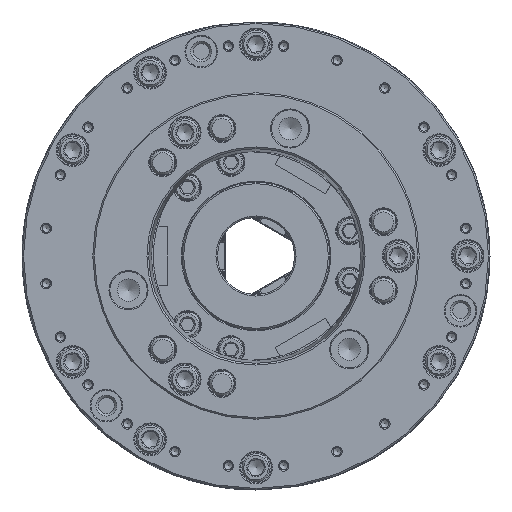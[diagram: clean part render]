
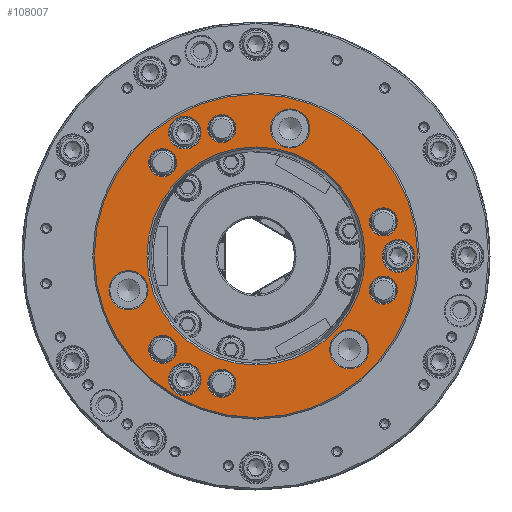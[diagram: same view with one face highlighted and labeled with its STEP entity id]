
A CAD part, left-side view. The second image highlights one B-rep face of the part: STEP entity #108007.
In plain terms, the highlighted planar face has unit normal (-1, 0, 0).
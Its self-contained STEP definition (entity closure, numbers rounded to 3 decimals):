
#216 = CIRCLE ( 'NONE', #14420, 105. ) ;
#1186 = CARTESIAN_POINT ( 'NONE',  ( -125., 22.187, 82.804 ) ) ;
#1993 = CIRCLE ( 'NONE', #129498, 12.705 ) ;
#3551 = EDGE_LOOP ( 'NONE', ( #88476 ) ) ;
#3667 = ORIENTED_EDGE ( 'NONE', *, *, #6503, .T. ) ;
#4482 = DIRECTION ( 'NONE',  ( 0., 0., 1. ) ) ;
#5330 = FACE_BOUND ( 'NONE', #117686, .T. ) ;
#6040 = PLANE ( 'NONE',  #28202 ) ;
#6503 = EDGE_CURVE ( 'NONE', #112399, #112399, #96721, .T. ) ;
#10970 = CARTESIAN_POINT ( 'NONE',  ( -125., -22.187, 82.804 ) ) ;
#12002 = ORIENTED_EDGE ( 'NONE', *, *, #133559, .F. ) ;
#13371 = EDGE_CURVE ( 'NONE', #24329, #24329, #25396, .T. ) ;
#13550 = AXIS2_PLACEMENT_3D ( 'NONE', #14421, #50589, #48412 ) ;
#14420 = AXIS2_PLACEMENT_3D ( 'NONE', #66841, #91999, #90547 ) ;
#14421 = CARTESIAN_POINT ( 'NONE',  ( -125., 60.617, 60.617 ) ) ;
#17855 = FACE_OUTER_BOUND ( 'NONE', #114086, .T. ) ;
#19763 = CARTESIAN_POINT ( 'NONE',  ( -125., 0., 105. ) ) ;
#21074 = AXIS2_PLACEMENT_3D ( 'NONE', #36847, #81971, #81256 ) ;
#21911 = DIRECTION ( 'NONE',  ( -1., 0., 0. ) ) ;
#22386 = CIRCLE ( 'NONE', #95689, 9.1 ) ;
#23261 = CIRCLE ( 'NONE', #75202, 70.861 ) ;
#24329 = VERTEX_POINT ( 'NONE', #103490 ) ;
#25396 = CIRCLE ( 'NONE', #46600, 10.6 ) ;
#25804 = CARTESIAN_POINT ( 'NONE',  ( -125., 60.617, 69.717 ) ) ;
#26540 = CARTESIAN_POINT ( 'NONE',  ( -125., 46.25, 90.707 ) ) ;
#26708 = DIRECTION ( 'NONE',  ( -1., 0., 0. ) ) ;
#27078 = EDGE_LOOP ( 'NONE', ( #71768 ) ) ;
#27663 = EDGE_CURVE ( 'NONE', #142599, #142599, #126010, .T. ) ;
#28202 = AXIS2_PLACEMENT_3D ( 'NONE', #37923, #51132, #141435 ) ;
#28239 = FACE_BOUND ( 'NONE', #115439, .T. ) ;
#28274 = ORIENTED_EDGE ( 'NONE', *, *, #130946, .F. ) ;
#28312 = AXIS2_PLACEMENT_3D ( 'NONE', #134412, #53759, #144076 ) ;
#29167 = EDGE_CURVE ( 'NONE', #110736, #110736, #50574, .T. ) ;
#29866 = CARTESIAN_POINT ( 'NONE',  ( -125., 82.804, -22.187 ) ) ;
#30103 = CARTESIAN_POINT ( 'NONE',  ( -125., -60.617, -73.322 ) ) ;
#31428 = CARTESIAN_POINT ( 'NONE',  ( -125., 0., 70.861 ) ) ;
#32521 = EDGE_LOOP ( 'NONE', ( #3667 ) ) ;
#32638 = CIRCLE ( 'NONE', #96463, 10.6 ) ;
#33471 = EDGE_CURVE ( 'NONE', #132940, #132940, #216, .T. ) ;
#36361 = DIRECTION ( 'NONE',  ( 0., 0., 1. ) ) ;
#36847 = CARTESIAN_POINT ( 'NONE',  ( -125., 46.25, -80.107 ) ) ;
#37923 = CARTESIAN_POINT ( 'NONE',  ( -125., 105., 0. ) ) ;
#39247 = CARTESIAN_POINT ( 'NONE',  ( -125., 22.187, -82.804 ) ) ;
#39323 = FACE_BOUND ( 'NONE', #72846, .T. ) ;
#44255 = DIRECTION ( 'NONE',  ( 0., 0., -1. ) ) ;
#44913 = VERTEX_POINT ( 'NONE', #137404 ) ;
#45985 = ORIENTED_EDGE ( 'NONE', *, *, #141916, .F. ) ;
#46147 = CARTESIAN_POINT ( 'NONE',  ( -125., 46.25, -69.507 ) ) ;
#46600 = AXIS2_PLACEMENT_3D ( 'NONE', #82637, #61835, #50746 ) ;
#46830 = EDGE_LOOP ( 'NONE', ( #28274 ) ) ;
#46992 = DIRECTION ( 'NONE',  ( 0., 0., 1. ) ) ;
#48412 = DIRECTION ( 'NONE',  ( 0., 0., 1. ) ) ;
#48720 = EDGE_LOOP ( 'NONE', ( #115689 ) ) ;
#50574 = CIRCLE ( 'NONE', #74229, 9.1 ) ;
#50589 = DIRECTION ( 'NONE',  ( -1., 0., 0. ) ) ;
#50746 = DIRECTION ( 'NONE',  ( 0., 0., 1. ) ) ;
#51132 = DIRECTION ( 'NONE',  ( 1., 0., 0. ) ) ;
#51855 = FACE_BOUND ( 'NONE', #32521, .T. ) ;
#51930 = CIRCLE ( 'NONE', #28312, 9.1 ) ;
#52150 = VERTEX_POINT ( 'NONE', #31428 ) ;
#52592 = FACE_BOUND ( 'NONE', #116851, .T. ) ;
#52982 = EDGE_LOOP ( 'NONE', ( #74694 ) ) ;
#53759 = DIRECTION ( 'NONE',  ( -1., 0., 0. ) ) ;
#55783 = ORIENTED_EDGE ( 'NONE', *, *, #33471, .T. ) ;
#56530 = DIRECTION ( 'NONE',  ( 0., 0., 1. ) ) ;
#57604 = EDGE_CURVE ( 'NONE', #59623, #59623, #22386, .T. ) ;
#57689 = EDGE_LOOP ( 'NONE', ( #131290 ) ) ;
#59623 = VERTEX_POINT ( 'NONE', #105491 ) ;
#61835 = DIRECTION ( 'NONE',  ( -1., 0., 0. ) ) ;
#64890 = CARTESIAN_POINT ( 'NONE',  ( -125., 82.804, -34.892 ) ) ;
#64968 = DIRECTION ( 'NONE',  ( 1., 0., 0. ) ) ;
#65618 = VERTEX_POINT ( 'NONE', #64890 ) ;
#66841 = CARTESIAN_POINT ( 'NONE',  ( -125., 0., 0. ) ) ;
#70752 = VERTEX_POINT ( 'NONE', #114465 ) ;
#70913 = EDGE_CURVE ( 'NONE', #108369, #108369, #84867, .T. ) ;
#71768 = ORIENTED_EDGE ( 'NONE', *, *, #13371, .F. ) ;
#72846 = EDGE_LOOP ( 'NONE', ( #124396 ) ) ;
#73609 = DIRECTION ( 'NONE',  ( 1., 0., 0. ) ) ;
#74229 = AXIS2_PLACEMENT_3D ( 'NONE', #39247, #26708, #76027 ) ;
#74322 = CARTESIAN_POINT ( 'NONE',  ( -125., -60.617, -60.617 ) ) ;
#74512 = CARTESIAN_POINT ( 'NONE',  ( -125., 22.187, -73.704 ) ) ;
#74674 = AXIS2_PLACEMENT_3D ( 'NONE', #137937, #126781, #127524 ) ;
#74694 = ORIENTED_EDGE ( 'NONE', *, *, #106452, .F. ) ;
#75202 = AXIS2_PLACEMENT_3D ( 'NONE', #137731, #104420, #36361 ) ;
#75945 = AXIS2_PLACEMENT_3D ( 'NONE', #126779, #114974, #56530 ) ;
#76027 = DIRECTION ( 'NONE',  ( 0., 0., 1. ) ) ;
#76379 = ORIENTED_EDGE ( 'NONE', *, *, #123449, .T. ) ;
#81256 = DIRECTION ( 'NONE',  ( 0., 0., 1. ) ) ;
#81497 = DIRECTION ( 'NONE',  ( -1., 0., 0. ) ) ;
#81971 = DIRECTION ( 'NONE',  ( -1., 0., 0. ) ) ;
#82053 = ORIENTED_EDGE ( 'NONE', *, *, #70913, .F. ) ;
#82637 = CARTESIAN_POINT ( 'NONE',  ( -125., -92.5, 0. ) ) ;
#84478 = FACE_BOUND ( 'NONE', #46830, .T. ) ;
#84867 = CIRCLE ( 'NONE', #21074, 10.6 ) ;
#87304 = AXIS2_PLACEMENT_3D ( 'NONE', #10970, #64968, #44255 ) ;
#88476 = ORIENTED_EDGE ( 'NONE', *, *, #101593, .F. ) ;
#90547 = DIRECTION ( 'NONE',  ( 0., 0., 1. ) ) ;
#91999 = DIRECTION ( 'NONE',  ( -1., 0., 0. ) ) ;
#93154 = CARTESIAN_POINT ( 'NONE',  ( -125., -22.187, 70.099 ) ) ;
#94894 = CIRCLE ( 'NONE', #75945, 9.1 ) ;
#95604 = FACE_BOUND ( 'NONE', #48720, .T. ) ;
#95689 = AXIS2_PLACEMENT_3D ( 'NONE', #1186, #21911, #46992 ) ;
#96323 = FACE_BOUND ( 'NONE', #52982, .T. ) ;
#96463 = AXIS2_PLACEMENT_3D ( 'NONE', #103687, #81497, #4482 ) ;
#96721 = CIRCLE ( 'NONE', #87304, 12.705 ) ;
#97055 = FACE_BOUND ( 'NONE', #143796, .T. ) ;
#101002 = CIRCLE ( 'NONE', #13550, 9.1 ) ;
#101593 = EDGE_CURVE ( 'NONE', #127150, #127150, #101002, .T. ) ;
#103033 = CIRCLE ( 'NONE', #74674, 9.1 ) ;
#103490 = CARTESIAN_POINT ( 'NONE',  ( -125., -92.5, 10.6 ) ) ;
#103687 = CARTESIAN_POINT ( 'NONE',  ( -125., 46.25, 80.107 ) ) ;
#104420 = DIRECTION ( 'NONE',  ( -1., 0., 0. ) ) ;
#105491 = CARTESIAN_POINT ( 'NONE',  ( -125., 22.187, 91.904 ) ) ;
#106438 = VERTEX_POINT ( 'NONE', #140456 ) ;
#106452 = EDGE_CURVE ( 'NONE', #127894, #127894, #32638, .T. ) ;
#108007 = ADVANCED_FACE ( 'NONE', ( #51855, #97055, #5330, #95604, #39323, #108851, #52592, #96323, #84478, #28239, #139276, #119233, #17855, #118522 ), #6040, .F. ) ;
#108369 = VERTEX_POINT ( 'NONE', #46147 ) ;
#108851 = FACE_BOUND ( 'NONE', #57689, .T. ) ;
#109039 = DIRECTION ( 'NONE',  ( 1., 0., 0. ) ) ;
#110736 = VERTEX_POINT ( 'NONE', #74512 ) ;
#112399 = VERTEX_POINT ( 'NONE', #93154 ) ;
#113174 = EDGE_CURVE ( 'NONE', #106438, #106438, #103033, .T. ) ;
#114086 = EDGE_LOOP ( 'NONE', ( #55783 ) ) ;
#114465 = CARTESIAN_POINT ( 'NONE',  ( -125., -82.804, -13.087 ) ) ;
#114974 = DIRECTION ( 'NONE',  ( -1., 0., 0. ) ) ;
#115439 = EDGE_LOOP ( 'NONE', ( #12002 ) ) ;
#115689 = ORIENTED_EDGE ( 'NONE', *, *, #113174, .F. ) ;
#116851 = EDGE_LOOP ( 'NONE', ( #82053 ) ) ;
#117686 = EDGE_LOOP ( 'NONE', ( #76379 ) ) ;
#118522 = FACE_BOUND ( 'NONE', #3551, .T. ) ;
#119233 = FACE_BOUND ( 'NONE', #141187, .T. ) ;
#122327 = DIRECTION ( 'NONE',  ( 0., 0., -1. ) ) ;
#123449 = EDGE_CURVE ( 'NONE', #65618, #65618, #1993, .T. ) ;
#124396 = ORIENTED_EDGE ( 'NONE', *, *, #29167, .F. ) ;
#126010 = CIRCLE ( 'NONE', #144943, 12.705 ) ;
#126779 = CARTESIAN_POINT ( 'NONE',  ( -125., -82.804, -22.187 ) ) ;
#126781 = DIRECTION ( 'NONE',  ( -1., 0., 0. ) ) ;
#127150 = VERTEX_POINT ( 'NONE', #25804 ) ;
#127524 = DIRECTION ( 'NONE',  ( 0., 0., 1. ) ) ;
#127894 = VERTEX_POINT ( 'NONE', #26540 ) ;
#129498 = AXIS2_PLACEMENT_3D ( 'NONE', #29866, #109039, #122327 ) ;
#130946 = EDGE_CURVE ( 'NONE', #70752, #70752, #94894, .T. ) ;
#131290 = ORIENTED_EDGE ( 'NONE', *, *, #57604, .F. ) ;
#131995 = DIRECTION ( 'NONE',  ( 0., 0., -1. ) ) ;
#132940 = VERTEX_POINT ( 'NONE', #19763 ) ;
#133559 = EDGE_CURVE ( 'NONE', #44913, #44913, #51930, .T. ) ;
#134412 = CARTESIAN_POINT ( 'NONE',  ( -125., -82.804, 22.187 ) ) ;
#137404 = CARTESIAN_POINT ( 'NONE',  ( -125., -82.804, 31.287 ) ) ;
#137731 = CARTESIAN_POINT ( 'NONE',  ( -125., 0., 0. ) ) ;
#137937 = CARTESIAN_POINT ( 'NONE',  ( -125., 60.617, -60.617 ) ) ;
#139276 = FACE_BOUND ( 'NONE', #27078, .T. ) ;
#140456 = CARTESIAN_POINT ( 'NONE',  ( -125., 60.617, -51.517 ) ) ;
#141187 = EDGE_LOOP ( 'NONE', ( #45985 ) ) ;
#141435 = DIRECTION ( 'NONE',  ( 0., 0., -1. ) ) ;
#141916 = EDGE_CURVE ( 'NONE', #52150, #52150, #23261, .T. ) ;
#142433 = ORIENTED_EDGE ( 'NONE', *, *, #27663, .T. ) ;
#142599 = VERTEX_POINT ( 'NONE', #30103 ) ;
#143796 = EDGE_LOOP ( 'NONE', ( #142433 ) ) ;
#144076 = DIRECTION ( 'NONE',  ( 0., 0., 1. ) ) ;
#144943 = AXIS2_PLACEMENT_3D ( 'NONE', #74322, #73609, #131995 ) ;
